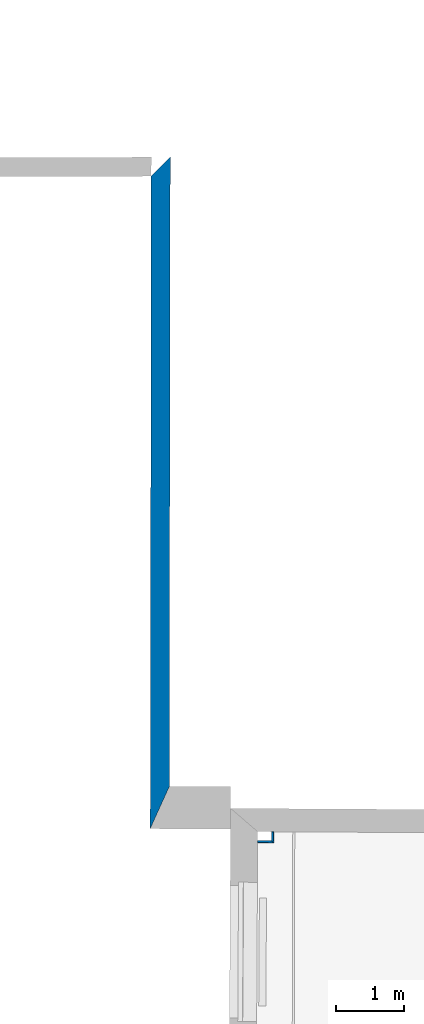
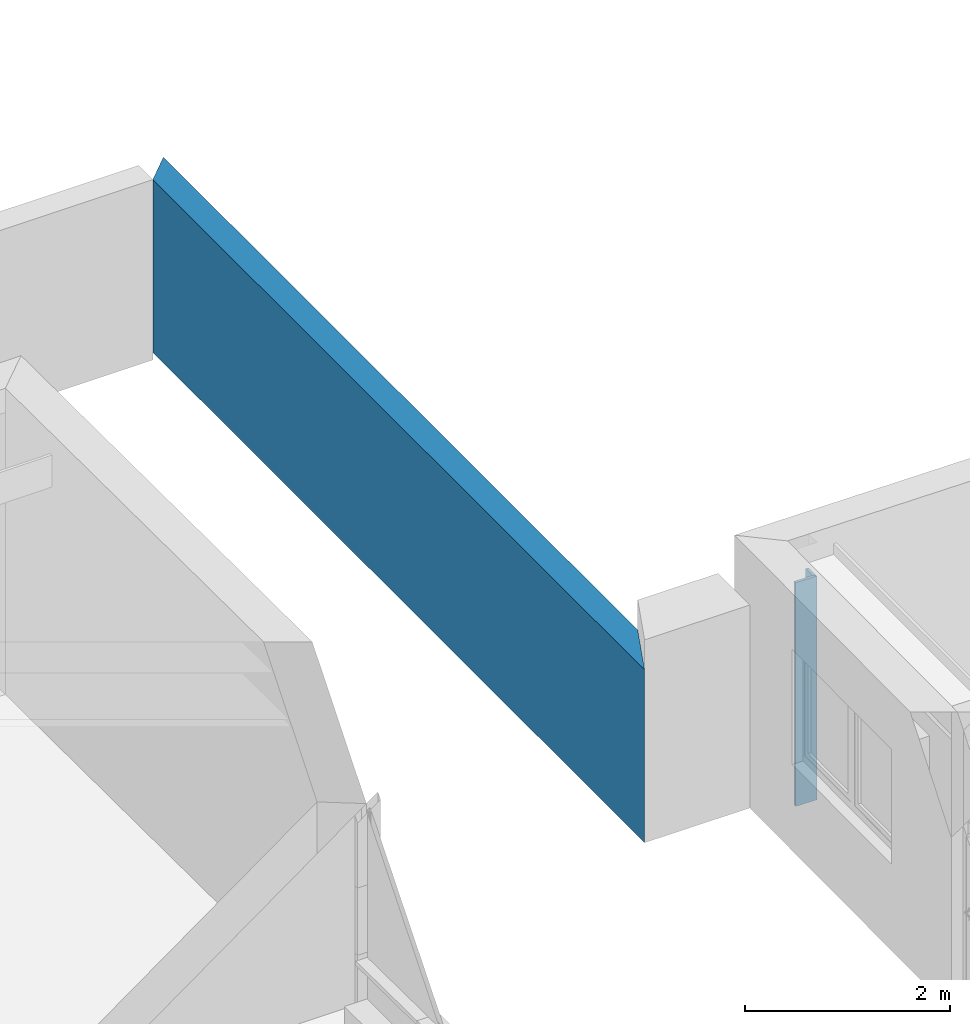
# One storey, part 35 of 196: 3 walls.
"""IFC2X3 building model written with IfcOpenShell, lengths in metres."""

from ifc_helpers import new_model, entity, si_unit, converted_unit, derived_unit, money_unit, direction, frame, origin_with_axes, place, context, subcontext, project, spatial, polyline, outline, extrude, material, layer, layer_set, layer_usage, type_object, element, save


model = new_model("IFC2X3")

# Units and contexts
model_context = context("Model", 3, precision=1e-05, world=origin_with_axes(), true_north=direction((0.0, 1.0)))
body_context = subcontext(model_context, "Body", "Model", "MODEL_VIEW")
ifc_project = project(units=[si_unit("LENGTHUNIT", "METRE"), si_unit("AREAUNIT", "SQUARE_METRE"), si_unit("VOLUMEUNIT", "CUBIC_METRE"), converted_unit("PLANEANGLEUNIT", "DEGREE", entity("IfcPlaneAngleMeasure", 0.0174532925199), si_unit("PLANEANGLEUNIT", "RADIAN"), dimensions=[0, 0, 0, 0, 0, 0, 0]), money_unit("EUR"), converted_unit("TIMEUNIT", "Year", entity("IfcTimeMeasure", 31556926.0), si_unit("TIMEUNIT", "SECOND"), dimensions=[0, 0, 1, 0, 0, 0, 0]), si_unit("MASSUNIT", "GRAM", prefix="KILO"), si_unit("THERMODYNAMICTEMPERATUREUNIT", "DEGREE_CELSIUS"), si_unit("LUMINOUSINTENSITYUNIT", "LUMEN"), si_unit("ENERGYUNIT", "JOULE", prefix="MEGA"), derived_unit("THERMALCONDUCTANCEUNIT", [(si_unit("POWERUNIT", "WATT"), 1), (si_unit("LENGTHUNIT", "METRE"), -1), (si_unit("THERMODYNAMICTEMPERATUREUNIT", "KELVIN"), -1)]), derived_unit("SPECIFICHEATCAPACITYUNIT", [(si_unit("ENERGYUNIT", "JOULE"), 1), (si_unit("MASSUNIT", "GRAM", prefix="KILO"), -1), (si_unit("THERMODYNAMICTEMPERATUREUNIT", "KELVIN"), -1)]), derived_unit("MASSDENSITYUNIT", [(si_unit("MASSUNIT", "GRAM", prefix="KILO"), 1), (si_unit("VOLUMEUNIT", "CUBIC_METRE"), -1)])], contexts=[model_context])

# Site, building, storey
site_placement = place(None, origin_with_axes())
site = spatial("IfcSite", under=ifc_project, at=site_placement, Name="Gelände", CompositionType="ELEMENT")
building_placement = place(site_placement, origin_with_axes())
building = spatial("IfcBuilding", under=site, at=building_placement, Name="Gebäude", CompositionType="ELEMENT")
storey_placement = place(building_placement, frame((0.0, 0.0, -3.0), z_axis=(0.0, 0.0, 1.0), x_axis=(1.0, 0.0, 0.0)))
storey = spatial("IfcBuildingStorey", under=building, at=storey_placement, Name="KELLERGESCHOSS", CompositionType="ELEMENT", Elevation=-3.0)

# Walls
ifc_material_1 = material(Name="05_ALLGEMEIN - TRAGENDE BAUTEILE")
ifc_layer_1 = layer(ifc_material_1, 0.28, ventilated="UNKNOWN")
ifc_layer_set_1 = layer_set([ifc_layer_1], Name="05_ALLGEMEIN - TRAGENDE BAUTEILE 0.28")
ifc_layer_usage_1 = layer_usage(ifc_layer_set_1, "AXIS2", "NEGATIVE", 0.28)
wall_type_1 = type_object("IfcWallType", Name="05_ALLGEMEIN - TRAGENDE BAUTEILE 280", PredefinedType="ELEMENTEDWALL")
wall_1_placement = place(storey_placement, frame((-11.9120380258, 57.9060477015, 0.44), z_axis=(0.0, 0.0, 1.0), x_axis=(-0.00155443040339, -0.999998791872, 0.0)))
element("IfcWallStandardCase", 1, at=wall_1_placement, inside=storey, type_object=wall_type_1, material=ifc_layer_usage_1, Name="Wand-030", ObjectType="ELEMENTEDWALL", context=body_context, shape_type="SweptSolid", body=[
    extrude(outline(polyline([(0.0, 0.0), (9.60103084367, 0.0), (8.98082859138, 0.28), (-0.281221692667, 0.28), (0.0, 0.0)])), origin_with_axes(), (0.0, 0.0, 1.0), 2.0540895),
])
ifc_material_2 = material(Name="43_Gipskarton")
ifc_layer_2 = layer(ifc_material_2, 0.03, ventilated="UNKNOWN")
ifc_layer_set_2 = layer_set([ifc_layer_2], Name="43_Gipskarton 0.03")
ifc_layer_usage_2 = layer_usage(ifc_layer_set_2, "AXIS2", "NEGATIVE", 0.03)
wall_type_2 = type_object("IfcWallType", Name="43_Gipskarton 30", PredefinedType="ELEMENTEDWALL")
wall_2_placement = place(storey_placement, frame((-10.7462318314, 48.1098013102, 0.44), z_axis=(0.0, 0.0, 1.0), x_axis=(0.999809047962, -0.0195414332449, 0.0)))
element("IfcWallStandardCase", 2, at=wall_2_placement, inside=storey, type_object=wall_type_2, material=ifc_layer_usage_2, Name="Wand-032", ObjectType="ELEMENTEDWALL", context=body_context, shape_type="SweptSolid", body=[
    extrude(outline(polyline([(0.400038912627, 0.0), (0.637456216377, 0.0), (0.606289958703, 0.03), (0.399620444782, 0.03), (0.400038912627, 0.0)])), origin_with_axes(), (0.0, 0.0, 1.0), 2.66),
])
ifc_layer_usage_3 = layer_usage(ifc_layer_set_2, "AXIS2", "NEGATIVE", 0.03)
wall_3_placement = place(storey_placement, frame((-10.1088973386, 48.0973445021, 0.44), z_axis=(0.0, 0.0, 1.0), x_axis=(-0.0185856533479, 0.999827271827, 0.0)))
element("IfcWallStandardCase", 3, at=wall_3_placement, inside=storey, type_object=wall_type_2, material=ifc_layer_usage_3, Name="Wand-033", ObjectType="ELEMENTEDWALL", context=body_context, shape_type="SweptSolid", body=[
    extrude(outline(polyline([(0.0, 0.0), (0.163191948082, 0.0), (0.163921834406, 0.03), (0.0311662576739, 0.03), (0.0, 0.0)])), origin_with_axes(), (0.0, 0.0, 1.0), 2.66),
])

save(model, "model.ifc")
